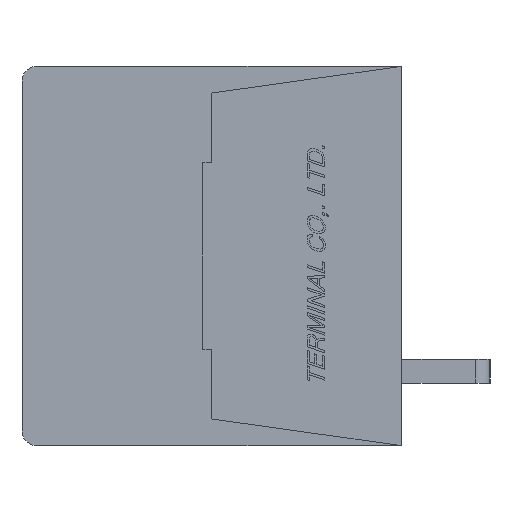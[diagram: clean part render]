
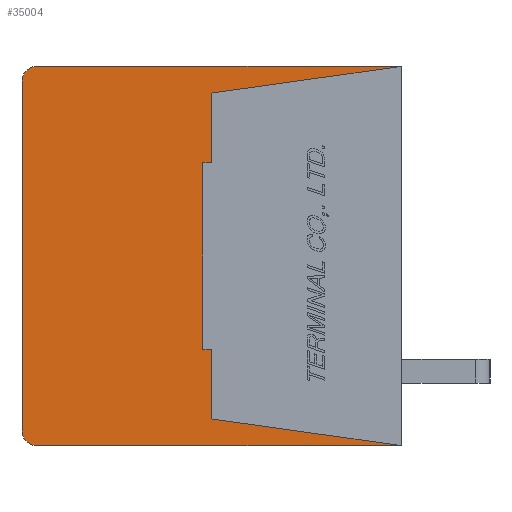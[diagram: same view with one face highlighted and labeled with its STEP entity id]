
A CAD part, left-side view. The second image highlights one B-rep face of the part: STEP entity #35004.
In plain terms, the highlighted planar face has unit normal (-1, 0, 0).
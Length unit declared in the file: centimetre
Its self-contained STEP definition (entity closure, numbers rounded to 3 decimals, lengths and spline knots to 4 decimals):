
#1796=CIRCLE('',#59941,0.05);
#1797=CIRCLE('',#59944,0.05);
#3098=VERTEX_POINT('',#48639);
#3099=VERTEX_POINT('',#48641);
#3100=VERTEX_POINT('',#48645);
#3101=VERTEX_POINT('',#48649);
#3102=VERTEX_POINT('',#48653);
#3103=VERTEX_POINT('',#48657);
#3104=VERTEX_POINT('',#48661);
#3105=VERTEX_POINT('',#48663);
#3106=VERTEX_POINT('',#48665);
#3107=VERTEX_POINT('',#48667);
#3108=VERTEX_POINT('',#48669);
#3109=VERTEX_POINT('',#48671);
#6808=VECTOR('',#40566,1.);
#6812=VECTOR('',#40575,1.);
#6815=VECTOR('',#40583,1.);
#6816=VECTOR('',#40585,1.);
#6817=VECTOR('',#40586,1.);
#6818=VECTOR('',#40587,1.);
#6819=VECTOR('',#40588,1.);
#6820=VECTOR('',#40589,1.);
#6821=VECTOR('',#40590,1.);
#6822=VECTOR('',#40591,1.);
#10928=LINE('',#48640,#6808);
#10932=LINE('',#48650,#6812);
#10935=LINE('',#48658,#6815);
#10936=LINE('',#48660,#6816);
#10937=LINE('',#48662,#6817);
#10938=LINE('',#48664,#6818);
#10939=LINE('',#48666,#6819);
#10940=LINE('',#48668,#6820);
#10941=LINE('',#48670,#6821);
#10942=LINE('',#48672,#6822);
#15508=EDGE_CURVE('',#3099,#3098,#10928,.T.);
#15511=EDGE_CURVE('',#3100,#3098,#1796,.T.);
#15513=EDGE_CURVE('',#3100,#3101,#10932,.T.);
#15515=EDGE_CURVE('',#3102,#3101,#1797,.T.);
#15517=EDGE_CURVE('',#3102,#3103,#10935,.T.);
#15518=EDGE_CURVE('',#3104,#3099,#10936,.T.);
#15519=EDGE_CURVE('',#3103,#3105,#10937,.T.);
#15520=EDGE_CURVE('',#3105,#3106,#10938,.T.);
#15521=EDGE_CURVE('',#3106,#3107,#10939,.T.);
#15522=EDGE_CURVE('',#3107,#3108,#10940,.T.);
#15523=EDGE_CURVE('',#3108,#3109,#10941,.T.);
#15524=EDGE_CURVE('',#3109,#3104,#10942,.T.);
#22593=ORIENTED_EDGE('',*,*,#15518,.T.);
#22594=ORIENTED_EDGE('',*,*,#15508,.T.);
#22595=ORIENTED_EDGE('',*,*,#15511,.F.);
#22596=ORIENTED_EDGE('',*,*,#15513,.T.);
#22597=ORIENTED_EDGE('',*,*,#15515,.F.);
#22598=ORIENTED_EDGE('',*,*,#15517,.T.);
#22599=ORIENTED_EDGE('',*,*,#15519,.T.);
#22600=ORIENTED_EDGE('',*,*,#15520,.T.);
#22601=ORIENTED_EDGE('',*,*,#15521,.T.);
#22602=ORIENTED_EDGE('',*,*,#15522,.T.);
#22603=ORIENTED_EDGE('',*,*,#15523,.T.);
#22604=ORIENTED_EDGE('',*,*,#15524,.T.);
#30478=EDGE_LOOP('',(#22593,#22594,#22595,#22596,#22597,#22598,#22599,#22600,
#22601,#22602,#22603,#22604));
#32790=FACE_BOUND('',#30478,.T.);
#35004=ADVANCED_FACE('',(#32790),#36922,.F.);
#36922=PLANE('',#59946);
#40566=DIRECTION('',(0.,1.,0.));
#40571=DIRECTION('',(1.,0.,0.));
#40572=DIRECTION('',(0.,0.,-0.05));
#40575=DIRECTION('',(0.,0.,-1.));
#40579=DIRECTION('',(1.,0.,0.));
#40580=DIRECTION('',(0.,0.,-0.05));
#40583=DIRECTION('',(0.,-1.,0.));
#40584=DIRECTION('',(1.,0.,0.));
#40585=DIRECTION('',(0.,-0.99,0.139));
#40586=DIRECTION('',(0.,0.99,0.139));
#40587=DIRECTION('',(0.,0.,1.));
#40588=DIRECTION('',(0.,1.,0.));
#40589=DIRECTION('',(0.,0.,1.));
#40590=DIRECTION('',(0.,-1.,0.));
#40591=DIRECTION('',(0.,0.,1.));
#48639=CARTESIAN_POINT('',(-0.889,1.23,0.64));
#48640=CARTESIAN_POINT('',(-0.889,0.,0.64));
#48641=CARTESIAN_POINT('',(-0.889,0.,0.64));
#48645=CARTESIAN_POINT('',(-0.889,1.28,0.59));
#48646=CARTESIAN_POINT('',(-0.889,1.23,0.59));
#48649=CARTESIAN_POINT('',(-0.889,1.28,-0.59));
#48650=CARTESIAN_POINT('',(-0.889,1.28,0.59));
#48653=CARTESIAN_POINT('',(-0.889,1.23,-0.64));
#48654=CARTESIAN_POINT('',(-0.889,1.23,-0.59));
#48657=CARTESIAN_POINT('',(-0.889,0.,-0.64));
#48658=CARTESIAN_POINT('',(-0.889,1.23,-0.64));
#48659=CARTESIAN_POINT('',(-0.889,0.6345,0.));
#48660=CARTESIAN_POINT('',(-0.889,0.64,0.55));
#48661=CARTESIAN_POINT('',(-0.889,0.64,0.55));
#48662=CARTESIAN_POINT('',(-0.889,0.,-0.64));
#48663=CARTESIAN_POINT('',(-0.889,0.64,-0.55));
#48664=CARTESIAN_POINT('',(-0.889,0.64,-0.55));
#48665=CARTESIAN_POINT('',(-0.889,0.64,-0.315));
#48666=CARTESIAN_POINT('',(-0.889,0.64,-0.315));
#48667=CARTESIAN_POINT('',(-0.889,0.67,-0.315));
#48668=CARTESIAN_POINT('',(-0.889,0.67,-0.315));
#48669=CARTESIAN_POINT('',(-0.889,0.67,0.315));
#48670=CARTESIAN_POINT('',(-0.889,0.67,0.315));
#48671=CARTESIAN_POINT('',(-0.889,0.64,0.315));
#48672=CARTESIAN_POINT('',(-0.889,0.64,0.315));
#59941=AXIS2_PLACEMENT_3D('',#48646,#40571,#40572);
#59944=AXIS2_PLACEMENT_3D('',#48654,#40579,#40580);
#59946=AXIS2_PLACEMENT_3D('',#48659,#40584,$);
